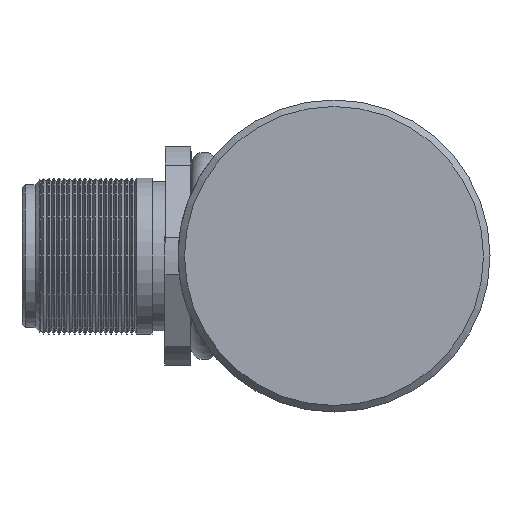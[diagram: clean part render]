
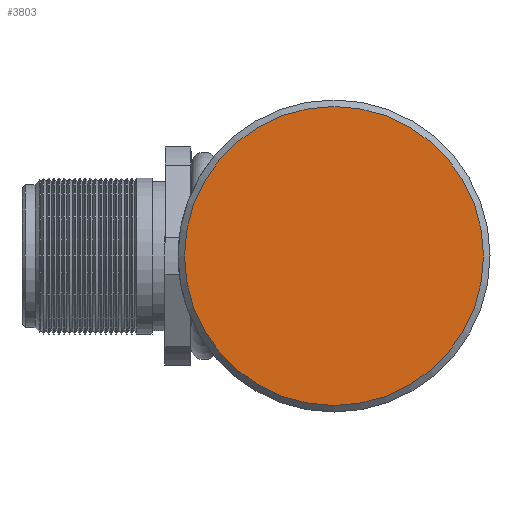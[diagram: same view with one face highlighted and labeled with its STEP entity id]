
A CAD part, left-side view. The second image highlights one B-rep face of the part: STEP entity #3803.
In plain terms, the highlighted planar face has unit normal (-1, 0, 0).
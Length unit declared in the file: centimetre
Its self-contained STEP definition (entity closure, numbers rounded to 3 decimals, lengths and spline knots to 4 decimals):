
#773=PLANE('',#4097);
#868=CIRCLE('',#4096,1.15);
#1067=VERTEX_POINT('',#4537);
#1462=EDGE_CURVE('',#1067,#1067,#868,.T.);
#1987=ORIENTED_EDGE('',*,*,#1462,.T.);
#3008=EDGE_LOOP('',(#1987));
#3410=FACE_BOUND('',#3008,.T.);
#3803=ADVANCED_FACE('',(#3410),#773,.F.);
#4096=AXIS2_PLACEMENT_3D('',#4536,#6222,#6223);
#4097=AXIS2_PLACEMENT_3D('',#4538,#6224,$);
#4536=CARTESIAN_POINT('',(-4.4,0.,0.));
#4537=CARTESIAN_POINT('',(-4.4,0.,-1.15));
#4538=CARTESIAN_POINT('',(-4.4,0.,0.));
#6222=DIRECTION('',(-1.,0.,0.));
#6223=DIRECTION('',(0.,0.,-1.15));
#6224=DIRECTION('',(1.,0.,0.));
